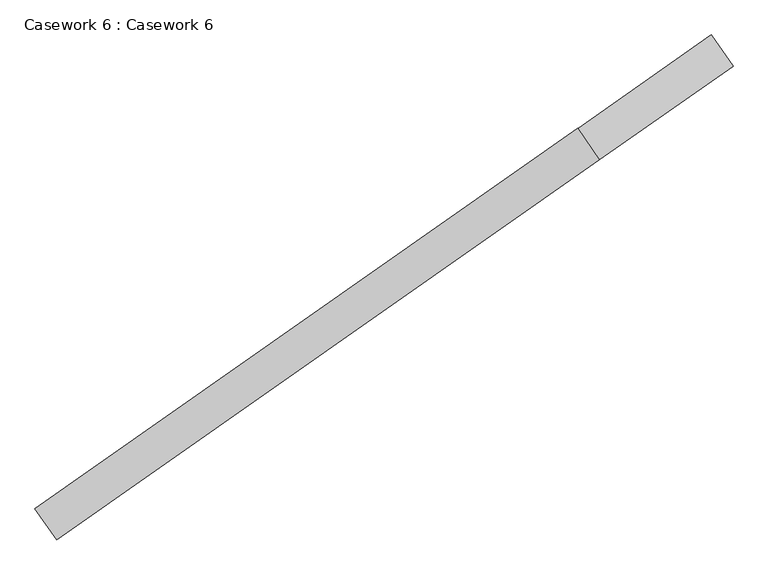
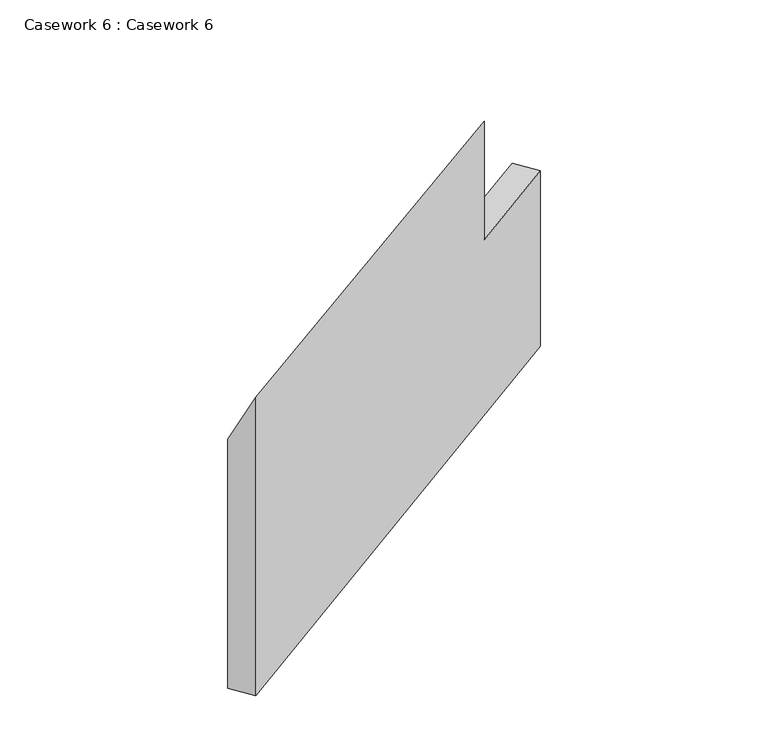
"""IFC4 building model written with IfcOpenShell, lengths in millimetres: furniture geometry, Casework 6 : Casework 6."""

from ifc_helpers import new_model, si_unit, origin, place, context, project, spatial, faceted_brep, source, transform, mapped, element, save


def casework_6_casework_6_2a395651(model_context):
    return source(origin(), model_context, "Body", "Brep", [
        faceted_brep([(-8574.8276262, 12558.1806891, 0.0), (-8815.7243405, 12902.2168514, 0.0), (-1350.9457843, 18129.1110676, 0.0), (-1110.04907, 17785.0749052, 0.0), (-1110.04907, 17785.0749052, 2900.0), (-2584.7940913, 16752.4473244, 2900.0), (-2584.7940913, 16752.4473244, 4859.138508), (-8574.8276262, 12558.1806891, 4939.8715256), (-1350.9457843, 18129.1110676, 2900.0), (-8815.7243405, 12902.2168514, 4120.5982965), (-2825.6908055, 17096.4834868, 4039.8652789), (-2825.6908055, 17096.4834868, 2900.0)], [[[0, 1, 2, 3]], [[0, 3, 4, 5, 6, 7]], [[3, 2, 8, 4]], [[2, 1, 9, 10, 11, 8]], [[1, 0, 7, 9]], [[9, 7, 6, 10]], [[5, 11, 10, 6]], [[11, 5, 4, 8]]]),
    ])


if __name__ == "__main__":
    model = new_model("IFC4")
    model_context = context("Model", 3, world=origin())
    ifc_project = project(units=[si_unit("LENGTHUNIT", "METRE", prefix="MILLI")], contexts=[model_context])
    site = spatial("IfcSite", under=ifc_project)
    building = spatial("IfcBuilding", under=site)
    placement = place(None, origin())
    casework_6_casework_6_shape = casework_6_casework_6_2a395651(model_context)
    element("IfcFurniture", 1, ObjectType="Casework 6 : Casework 6", at=placement, inside=building, context=model_context, shape_type="MappedRepresentation", body=[
        mapped(casework_6_casework_6_shape, transform((0.0, 0.0, 0.0), x_axis=(1.0, 0.0, 0.0), y_axis=(0.0, 1.0, 0.0), z_axis=(0.0, 0.0, 1.0))),
    ])
    save(model, "model.ifc")
